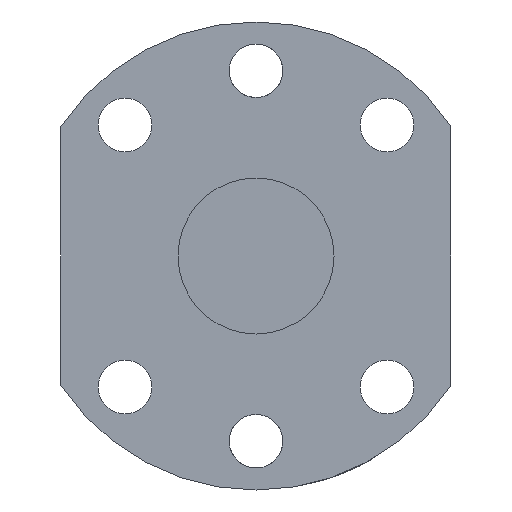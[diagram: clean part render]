
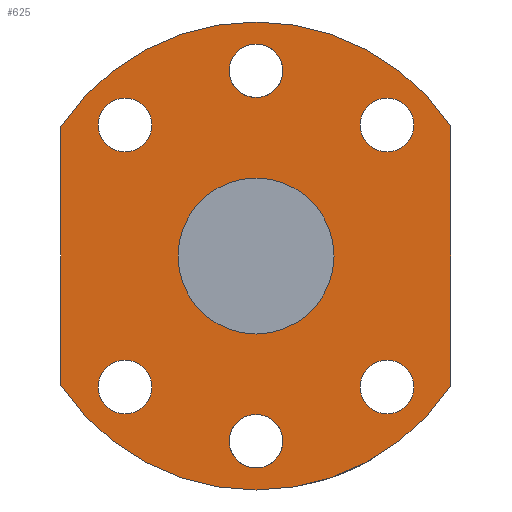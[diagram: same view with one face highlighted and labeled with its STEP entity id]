
A CAD part, front view. The second image highlights one B-rep face of the part: STEP entity #625.
In plain terms, the highlighted planar face has unit normal (0, -1, 0).
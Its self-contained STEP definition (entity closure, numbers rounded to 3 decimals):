
#11 = EDGE_CURVE ( 'NONE', #727, #727, #509, .T. ) ;
#12 = CARTESIAN_POINT ( 'NONE',  ( -13.435, -22.5, -10.685 ) ) ;
#24 = EDGE_LOOP ( 'NONE', ( #770 ) ) ;
#36 = ORIENTED_EDGE ( 'NONE', *, *, #362, .F. ) ;
#37 = CARTESIAN_POINT ( 'NONE',  ( -1.945, -22.5, 17.055 ) ) ;
#40 = PLANE ( 'NONE',  #230 ) ;
#48 = CARTESIAN_POINT ( 'NONE',  ( 0., -22.5, 0. ) ) ;
#49 = EDGE_LOOP ( 'NONE', ( #381 ) ) ;
#51 = CARTESIAN_POINT ( 'NONE',  ( 20., -22.5, -13.266 ) ) ;
#54 = AXIS2_PLACEMENT_3D ( 'NONE', #280, #526, #335 ) ;
#55 = CARTESIAN_POINT ( 'NONE',  ( -20., -22.5, -13.266 ) ) ;
#57 = EDGE_LOOP ( 'NONE', ( #531, #36, #400, #694 ) ) ;
#62 = VERTEX_POINT ( 'NONE', #486 ) ;
#63 = DIRECTION ( 'NONE',  ( 1., 0., 0. ) ) ;
#65 = VERTEX_POINT ( 'NONE', #196 ) ;
#72 = DIRECTION ( 'NONE',  ( 0., -1., 0. ) ) ;
#103 = EDGE_CURVE ( 'NONE', #62, #62, #771, .T. ) ;
#125 = VERTEX_POINT ( 'NONE', #296 ) ;
#135 = EDGE_LOOP ( 'NONE', ( #636 ) ) ;
#144 = DIRECTION ( 'NONE',  ( 0., 1., 0. ) ) ;
#145 = EDGE_CURVE ( 'NONE', #125, #125, #590, .T. ) ;
#154 = VERTEX_POINT ( 'NONE', #706 ) ;
#159 = ORIENTED_EDGE ( 'NONE', *, *, #317, .T. ) ;
#161 = EDGE_CURVE ( 'NONE', #718, #286, #779, .T. ) ;
#164 = FACE_BOUND ( 'NONE', #523, .T. ) ;
#167 = DIRECTION ( 'NONE',  ( 0., 1., 0. ) ) ;
#176 = EDGE_LOOP ( 'NONE', ( #599 ) ) ;
#182 = AXIS2_PLACEMENT_3D ( 'NONE', #231, #585, #471 ) ;
#184 = AXIS2_PLACEMENT_3D ( 'NONE', #246, #487, #732 ) ;
#196 = CARTESIAN_POINT ( 'NONE',  ( 0., -22.5, 8. ) ) ;
#220 = CIRCLE ( 'NONE', #182, 2.75 ) ;
#221 = AXIS2_PLACEMENT_3D ( 'NONE', #355, #144, #260 ) ;
#227 = CARTESIAN_POINT ( 'NONE',  ( 20., -22.5, 13.266 ) ) ;
#230 = AXIS2_PLACEMENT_3D ( 'NONE', #341, #655, #778 ) ;
#231 = CARTESIAN_POINT ( 'NONE',  ( 0., -22.5, -19. ) ) ;
#239 = EDGE_CURVE ( 'NONE', #154, #718, #382, .T. ) ;
#246 = CARTESIAN_POINT ( 'NONE',  ( 0., -22.5, 0. ) ) ;
#256 = VECTOR ( 'NONE', #320, 1000. ) ;
#260 = DIRECTION ( 'NONE',  ( 0., 0., 1. ) ) ;
#280 = CARTESIAN_POINT ( 'NONE',  ( -13.435, -22.5, 13.435 ) ) ;
#284 = FACE_BOUND ( 'NONE', #176, .T. ) ;
#286 = VERTEX_POINT ( 'NONE', #51 ) ;
#296 = CARTESIAN_POINT ( 'NONE',  ( -13.435, -22.5, 10.685 ) ) ;
#310 = AXIS2_PLACEMENT_3D ( 'NONE', #575, #565, #379 ) ;
#311 = VERTEX_POINT ( 'NONE', #616 ) ;
#317 = EDGE_CURVE ( 'NONE', #65, #65, #415, .T. ) ;
#320 = DIRECTION ( 'NONE',  ( 0., 0., 1. ) ) ;
#329 = DIRECTION ( 'NONE',  ( -1., 0., 0. ) ) ;
#331 = FACE_BOUND ( 'NONE', #49, .T. ) ;
#335 = DIRECTION ( 'NONE',  ( 0., 0., -1. ) ) ;
#341 = CARTESIAN_POINT ( 'NONE',  ( 0., -22.5, 0. ) ) ;
#355 = CARTESIAN_POINT ( 'NONE',  ( -13.435, -22.5, -13.435 ) ) ;
#356 = AXIS2_PLACEMENT_3D ( 'NONE', #388, #506, #329 ) ;
#362 = EDGE_CURVE ( 'NONE', #563, #154, #687, .T. ) ;
#368 = CARTESIAN_POINT ( 'NONE',  ( 13.435, -22.5, -13.435 ) ) ;
#369 = VERTEX_POINT ( 'NONE', #37 ) ;
#372 = EDGE_CURVE ( 'NONE', #675, #675, #377, .T. ) ;
#377 = CIRCLE ( 'NONE', #221, 2.75 ) ;
#379 = DIRECTION ( 'NONE',  ( 1., 0., 0. ) ) ;
#381 = ORIENTED_EDGE ( 'NONE', *, *, #11, .T. ) ;
#382 = CIRCLE ( 'NONE', #568, 24. ) ;
#388 = CARTESIAN_POINT ( 'NONE',  ( 13.435, -22.5, 13.435 ) ) ;
#395 = ORIENTED_EDGE ( 'NONE', *, *, #103, .F. ) ;
#400 = ORIENTED_EDGE ( 'NONE', *, *, #433, .F. ) ;
#406 = FACE_BOUND ( 'NONE', #135, .T. ) ;
#414 = DIRECTION ( 'NONE',  ( -0.707, 0., -0.707 ) ) ;
#415 = CIRCLE ( 'NONE', #184, 8. ) ;
#422 = AXIS2_PLACEMENT_3D ( 'NONE', #597, #72, #414 ) ;
#433 = EDGE_CURVE ( 'NONE', #286, #563, #553, .T. ) ;
#447 = ORIENTED_EDGE ( 'NONE', *, *, #145, .F. ) ;
#471 = DIRECTION ( 'NONE',  ( -0.707, 0., 0.707 ) ) ;
#474 = FACE_BOUND ( 'NONE', #535, .T. ) ;
#486 = CARTESIAN_POINT ( 'NONE',  ( 10.685, -22.5, 13.435 ) ) ;
#487 = DIRECTION ( 'NONE',  ( 0., 1., 0. ) ) ;
#488 = DIRECTION ( 'NONE',  ( -1., 0., 0. ) ) ;
#489 = VECTOR ( 'NONE', #522, 1000. ) ;
#506 = DIRECTION ( 'NONE',  ( 0., -1., 0. ) ) ;
#509 = CIRCLE ( 'NONE', #752, 2.75 ) ;
#510 = CARTESIAN_POINT ( 'NONE',  ( -20., -22.5, -13.266 ) ) ;
#522 = DIRECTION ( 'NONE',  ( 0., 0., -1. ) ) ;
#523 = EDGE_LOOP ( 'NONE', ( #159 ) ) ;
#526 = DIRECTION ( 'NONE',  ( 0., -1., 0. ) ) ;
#531 = ORIENTED_EDGE ( 'NONE', *, *, #239, .F. ) ;
#533 = FACE_BOUND ( 'NONE', #24, .T. ) ;
#535 = EDGE_LOOP ( 'NONE', ( #395 ) ) ;
#553 = CIRCLE ( 'NONE', #310, 24. ) ;
#563 = VERTEX_POINT ( 'NONE', #55 ) ;
#565 = DIRECTION ( 'NONE',  ( 0., 1., 0. ) ) ;
#568 = AXIS2_PLACEMENT_3D ( 'NONE', #48, #167, #63 ) ;
#575 = CARTESIAN_POINT ( 'NONE',  ( 0., -22.5, 0. ) ) ;
#578 = FACE_OUTER_BOUND ( 'NONE', #57, .T. ) ;
#585 = DIRECTION ( 'NONE',  ( 0., 1., 0. ) ) ;
#590 = CIRCLE ( 'NONE', #54, 2.75 ) ;
#597 = CARTESIAN_POINT ( 'NONE',  ( 0., -22.5, 19. ) ) ;
#599 = ORIENTED_EDGE ( 'NONE', *, *, #372, .T. ) ;
#616 = CARTESIAN_POINT ( 'NONE',  ( -1.945, -22.5, -17.055 ) ) ;
#625 = ADVANCED_FACE ( 'NONE', ( #474, #533, #642, #331, #406, #284, #578, #164 ), #40, .F. ) ;
#636 = ORIENTED_EDGE ( 'NONE', *, *, #689, .T. ) ;
#642 = FACE_BOUND ( 'NONE', #658, .T. ) ;
#644 = CIRCLE ( 'NONE', #422, 2.75 ) ;
#655 = DIRECTION ( 'NONE',  ( 0., 1., 0. ) ) ;
#658 = EDGE_LOOP ( 'NONE', ( #447 ) ) ;
#663 = CARTESIAN_POINT ( 'NONE',  ( 10.685, -22.5, -13.435 ) ) ;
#675 = VERTEX_POINT ( 'NONE', #12 ) ;
#681 = DIRECTION ( 'NONE',  ( 0., 1., 0. ) ) ;
#687 = LINE ( 'NONE', #510, #256 ) ;
#689 = EDGE_CURVE ( 'NONE', #311, #311, #220, .T. ) ;
#694 = ORIENTED_EDGE ( 'NONE', *, *, #161, .F. ) ;
#706 = CARTESIAN_POINT ( 'NONE',  ( -20., -22.5, 13.266 ) ) ;
#718 = VERTEX_POINT ( 'NONE', #227 ) ;
#727 = VERTEX_POINT ( 'NONE', #663 ) ;
#732 = DIRECTION ( 'NONE',  ( 0., 0., 1. ) ) ;
#752 = AXIS2_PLACEMENT_3D ( 'NONE', #368, #681, #488 ) ;
#768 = CARTESIAN_POINT ( 'NONE',  ( 20., -22.5, 13.266 ) ) ;
#769 = EDGE_CURVE ( 'NONE', #369, #369, #644, .T. ) ;
#770 = ORIENTED_EDGE ( 'NONE', *, *, #769, .F. ) ;
#771 = CIRCLE ( 'NONE', #356, 2.75 ) ;
#778 = DIRECTION ( 'NONE',  ( 1., 0., 0. ) ) ;
#779 = LINE ( 'NONE', #768, #489 ) ;
